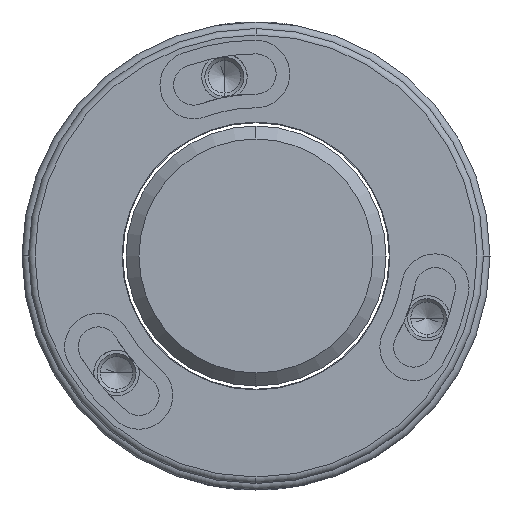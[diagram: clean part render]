
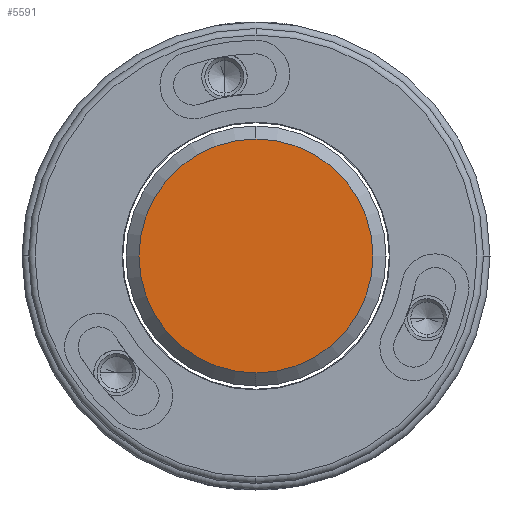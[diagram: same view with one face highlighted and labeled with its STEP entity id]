
A CAD part, left-side view. The second image highlights one B-rep face of the part: STEP entity #5591.
In plain terms, the highlighted planar face has unit normal (-1, 0, 0).
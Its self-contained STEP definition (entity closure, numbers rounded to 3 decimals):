
#187 = DIRECTION ( 'NONE',  ( 0., 0., 1. ) ) ;
#293 = ORIENTED_EDGE ( 'NONE', *, *, #1898, .T. ) ;
#376 = FACE_OUTER_BOUND ( 'NONE', #3621, .T. ) ;
#1140 = CIRCLE ( 'NONE', #5719, 9. ) ;
#1334 = AXIS2_PLACEMENT_3D ( 'NONE', #2517, #3510, #187 ) ;
#1340 = DIRECTION ( 'NONE',  ( 0., 0., 1. ) ) ;
#1609 = VERTEX_POINT ( 'NONE', #4704 ) ;
#1898 = EDGE_CURVE ( 'NONE', #1609, #2416, #1140, .T. ) ;
#2351 = DIRECTION ( 'NONE',  ( -1., 0., 0. ) ) ;
#2353 = AXIS2_PLACEMENT_3D ( 'NONE', #3716, #3288, #1340 ) ;
#2416 = VERTEX_POINT ( 'NONE', #5800 ) ;
#2517 = CARTESIAN_POINT ( 'NONE',  ( -10., 0., 0. ) ) ;
#2992 = CARTESIAN_POINT ( 'NONE',  ( -10., 0., 0. ) ) ;
#3288 = DIRECTION ( 'NONE',  ( -1., 0., 0. ) ) ;
#3510 = DIRECTION ( 'NONE',  ( -1., 0., 0. ) ) ;
#3516 = ORIENTED_EDGE ( 'NONE', *, *, #4900, .T. ) ;
#3621 = EDGE_LOOP ( 'NONE', ( #3516, #293 ) ) ;
#3716 = CARTESIAN_POINT ( 'NONE',  ( -10., 0., 0. ) ) ;
#4704 = CARTESIAN_POINT ( 'NONE',  ( -10., 0., 9. ) ) ;
#4900 = EDGE_CURVE ( 'NONE', #2416, #1609, #5373, .T. ) ;
#5358 = PLANE ( 'NONE',  #1334 ) ;
#5373 = CIRCLE ( 'NONE', #2353, 9. ) ;
#5591 = ADVANCED_FACE ( 'NONE', ( #376 ), #5358, .T. ) ;
#5719 = AXIS2_PLACEMENT_3D ( 'NONE', #2992, #2351, #5872 ) ;
#5800 = CARTESIAN_POINT ( 'NONE',  ( -10., 0., -9. ) ) ;
#5872 = DIRECTION ( 'NONE',  ( 0., 0., 1. ) ) ;
